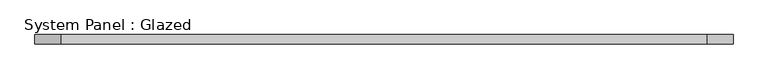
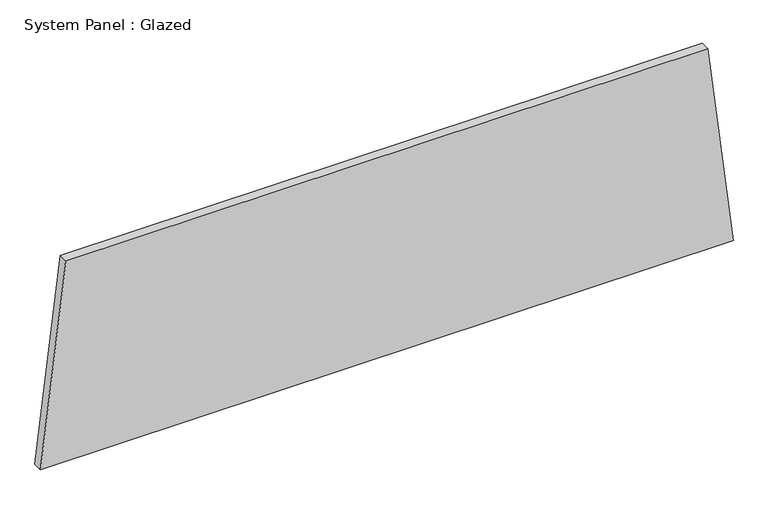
"""IFC4 building model written with IfcOpenShell, lengths in millimetres: plate geometry, System Panel : Glazed."""

from ifc_helpers import new_model, si_unit, frame, origin, place, context, project, spatial, polyline, outline, extrude, source, transform, mapped, element, save


def system_panel_glazed_d90a1b68(model_context):
    return source(origin(), model_context, "Body", "SweptSolid", [
        extrude(outline(polyline([(0.0, -947.3014061), (0.0, 947.3014061), (579.8510312, 877.6651275), (579.8510312, -877.6651275), (0.0, -947.3014061)])), frame((0.0, -44.45, 0.0), z_axis=(0.0, 1.0, 0.0), x_axis=(0.0, 0.0, 1.0)), (0.0, 0.0, 1.0), 25.4),
    ])


if __name__ == "__main__":
    model = new_model("IFC4")
    model_context = context("Model", 3, world=origin())
    ifc_project = project(units=[si_unit("LENGTHUNIT", "METRE", prefix="MILLI")], contexts=[model_context])
    site = spatial("IfcSite", under=ifc_project)
    building = spatial("IfcBuilding", under=site)
    placement = place(None, origin())
    system_panel_glazed_shape = system_panel_glazed_d90a1b68(model_context)
    element("IfcPlate", 1, ObjectType="System Panel : Glazed", at=placement, inside=building, context=model_context, shape_type="MappedRepresentation", body=[
        mapped(system_panel_glazed_shape, transform((0.0, 0.0, 0.0), x_axis=(1.0, 0.0, 0.0), y_axis=(0.0, 1.0, 0.0), z_axis=(0.0, 0.0, 1.0))),
    ])
    save(model, "model.ifc")
